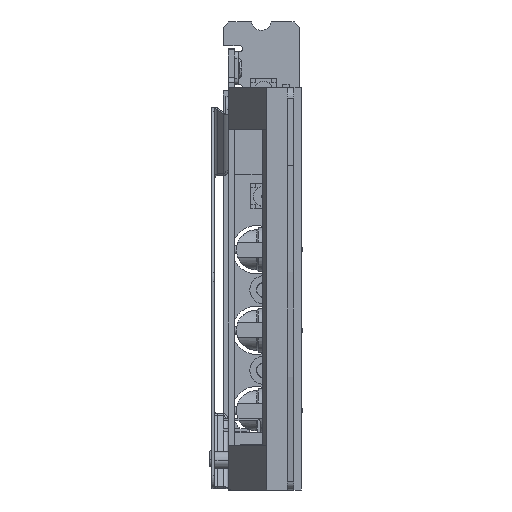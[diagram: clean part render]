
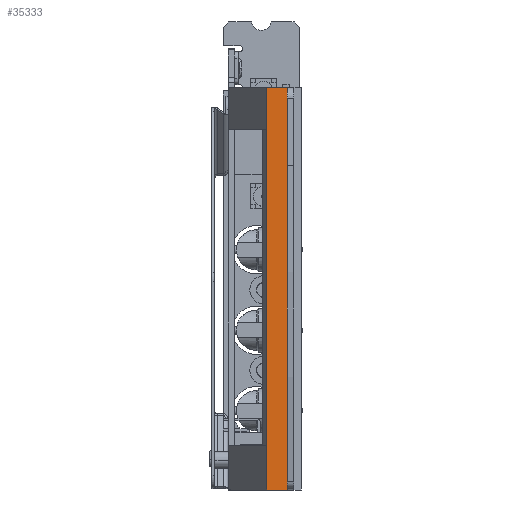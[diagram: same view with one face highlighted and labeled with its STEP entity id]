
A CAD part, front view. The second image highlights one B-rep face of the part: STEP entity #35333.
In plain terms, the highlighted planar face has unit normal (0, -1, 0).
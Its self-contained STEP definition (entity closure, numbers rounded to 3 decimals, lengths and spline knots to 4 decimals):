
#3142=DIRECTION('',(1.,0.,0.));
#3143=VECTOR('',#3142,0.198);
#3144=CARTESIAN_POINT('',(0.364,-12.579,-0.185));
#3145=LINE('',#3144,#3143);
#3235=DIRECTION('',(1.,0.,0.));
#3236=VECTOR('',#3235,0.198);
#3237=CARTESIAN_POINT('',(0.364,-12.579,-4.01));
#3238=LINE('',#3237,#3236);
#3311=DIRECTION('',(0.,0.,1.));
#3312=VECTOR('',#3311,3.825);
#3313=CARTESIAN_POINT('',(0.364,-12.579,-4.01));
#3314=LINE('',#3313,#3312);
#3330=DIRECTION('',(0.,0.,1.));
#3331=VECTOR('',#3330,3.825);
#3332=CARTESIAN_POINT('',(0.562,-12.579,-4.01));
#3333=LINE('',#3332,#3331);
#32955=CARTESIAN_POINT('',(0.364,-12.579,-4.01));
#32956=VERTEX_POINT('',#32955);
#32957=CARTESIAN_POINT('',(0.562,-12.579,-4.01));
#32958=VERTEX_POINT('',#32957);
#32975=CARTESIAN_POINT('',(0.364,-12.579,-0.185));
#32976=VERTEX_POINT('',#32975);
#32977=CARTESIAN_POINT('',(0.562,-12.579,-0.185));
#32978=VERTEX_POINT('',#32977);
#35321=CARTESIAN_POINT('',(0.364,-12.579,-4.01));
#35322=DIRECTION('',(0.,-1.,0.));
#35323=DIRECTION('',(1.,0.,0.));
#35324=AXIS2_PLACEMENT_3D('',#35321,#35322,#35323);
#35325=PLANE('',#35324);
#35326=ORIENTED_EDGE('',*,*,#35254,.F.);
#35327=ORIENTED_EDGE('',*,*,#35299,.T.);
#35328=ORIENTED_EDGE('',*,*,#35047,.T.);
#35330=ORIENTED_EDGE('',*,*,#35329,.F.);
#35331=EDGE_LOOP('',(#35326,#35327,#35328,#35330));
#35332=FACE_OUTER_BOUND('',#35331,.F.);
#35333=ADVANCED_FACE('',(#35332),#35325,.T.);
#35047=EDGE_CURVE('',#32976,#32978,#3145,.T.);
#35254=EDGE_CURVE('',#32956,#32958,#3238,.T.);
#35299=EDGE_CURVE('',#32956,#32976,#3314,.T.);
#35329=EDGE_CURVE('',#32958,#32978,#3333,.T.);
